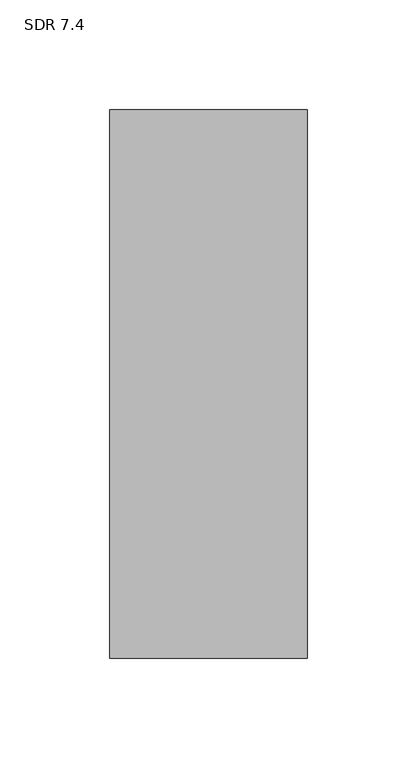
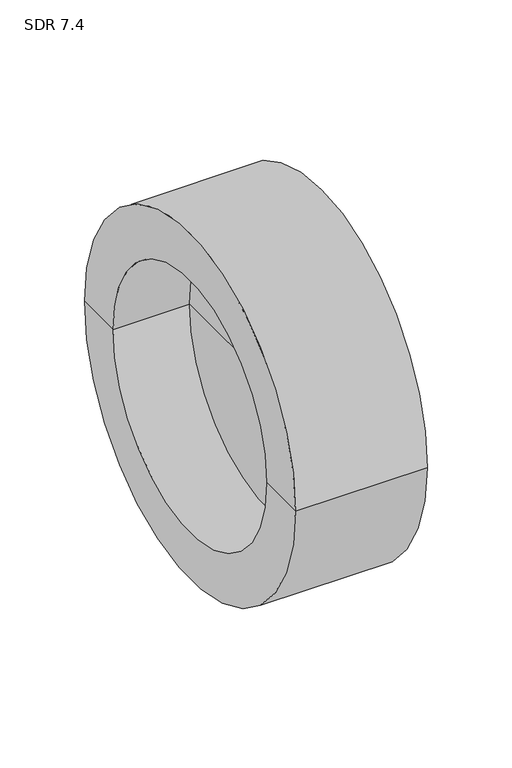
"""IFC4 building model written with IfcOpenShell, lengths in millimetres: pipe fitting geometry, Aquatherm - End Cap Butt-Weld : SDR 7.4."""

from ifc_helpers import new_model, si_unit, frame, origin, place, context, project, spatial, polyline, circle_curve, source, transform, mapped, element, save
from ifc_brep_helpers import plane_surface, cylinder_surface, revolved_surface, advanced_brep


def sdr_7_4_aa9f3303(model_context):
    return source(origin(), model_context, "Body", "AdvancedBrep", [
        advanced_brep(
        [(89.916, -124.968, 0.0), (89.916, 124.968, 0.0), (89.916, 0.0, 0.0), (52.324, 0.0, 0.0), (52.324, 91.186, 0.0), (52.324, -91.186, 0.0), (0.0, 91.186, 0.0), (0.0, -91.186, 0.0), (0.0, 124.968, 0.0), (0.0, -124.968, 0.0)],
        [
            (0, 1, circle_curve(frame((89.916, 0.0, 0.0), z_axis=(1.0, 0.0, 0.0), x_axis=(0.0, 1.0, 0.0)), 124.968)),
            (1, 2),
            (2, 0),
            (1, 0, circle_curve(frame((89.916, 0.0, 0.0), z_axis=(1.0, 0.0, 0.0), x_axis=(0.0, 1.0, 0.0)), 124.968)),
            (3, 4),
            (4, 5, circle_curve(frame((52.324, 0.0, 0.0), z_axis=(-1.0, 0.0, 0.0), x_axis=(0.0, 1.0, 0.0)), 91.186)),
            (5, 3),
            (5, 4, circle_curve(frame((52.324, 0.0, 0.0), z_axis=(-1.0, 0.0, 0.0), x_axis=(0.0, 1.0, 0.0)), 91.186)),
            (4, 6),
            (6, 7, circle_curve(frame((0.0, 0.0, 0.0), z_axis=(-1.0, 0.0, 0.0), x_axis=(0.0, 1.0, 0.0)), 91.186)),
            (7, 5),
            (7, 6, circle_curve(frame((0.0, 0.0, 0.0), z_axis=(-1.0, 0.0, 0.0), x_axis=(0.0, 1.0, 0.0)), 91.186)),
            (6, 8),
            (8, 9, circle_curve(frame((0.0, 0.0, 0.0), z_axis=(-1.0, 0.0, 0.0), x_axis=(0.0, 1.0, 0.0)), 124.968)),
            (9, 7),
            (9, 8, circle_curve(frame((0.0, 0.0, 0.0), z_axis=(-1.0, 0.0, 0.0), x_axis=(0.0, 1.0, 0.0)), 124.968)),
            (8, 1),
            (0, 9),
        ],
        [
            plane_surface(frame((89.916, 0.0, 0.0), z_axis=(1.0, 0.0, 0.0), x_axis=(0.0, 1.0, 0.0))),
            plane_surface(frame((52.324, 0.0, 0.0), z_axis=(-1.0, 0.0, 0.0), x_axis=(0.0, 1.0, 0.0))),
            revolved_surface(polyline([(0.0, 91.186, 0.0), (52.32400000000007, 91.186, 0.0)]), (-1354.074, 0.0, 0.0), (-1.0, 0.0, 0.0)),
            plane_surface(frame((0.0, 0.0, 0.0), z_axis=(-1.0, 0.0, 0.0), x_axis=(0.0, 1.0, 0.0))),
            cylinder_surface(frame((-1354.074, 0.0, 0.0), z_axis=(-1.0, 0.0, 0.0), x_axis=(0.0, 1.0, 0.0)), 124.968),
        ],
        [
            (0, [[1, 2, 3]]),
            (0, [[4, -3, -2]]),
            (1, [[5, 6, 7]]),
            (1, [[-7, 8, -5]]),
            (2, [[-6, 9, 10, 11]]),
            (2, [[-8, -11, 12, -9]]),
            (3, [[-10, 13, 14, 15]]),
            (3, [[-12, -15, 16, -13]]),
            (4, [[-14, 17, -1, 18]]),
            (4, [[-16, -18, -4, -17]]),
        ],
    ),
    ])


if __name__ == "__main__":
    model = new_model("IFC4")
    model_context = context("Model", 3, world=origin())
    ifc_project = project(units=[si_unit("LENGTHUNIT", "METRE", prefix="MILLI")], contexts=[model_context])
    site = spatial("IfcSite", under=ifc_project)
    building = spatial("IfcBuilding", under=site)
    placement = place(None, origin())
    sdr_7_4_shape = sdr_7_4_aa9f3303(model_context)
    element("IfcPipeFitting", 1, ObjectType="Aquatherm - End Cap Butt-Weld : SDR 7.4", at=placement, inside=building, context=model_context, shape_type="MappedRepresentation", body=[
        mapped(sdr_7_4_shape, transform((0.0, 0.0, 0.0), x_axis=(1.0, 0.0, 0.0), y_axis=(0.0, 1.0, 0.0), z_axis=(0.0, 0.0, 1.0))),
    ])
    save(model, "model.ifc")
